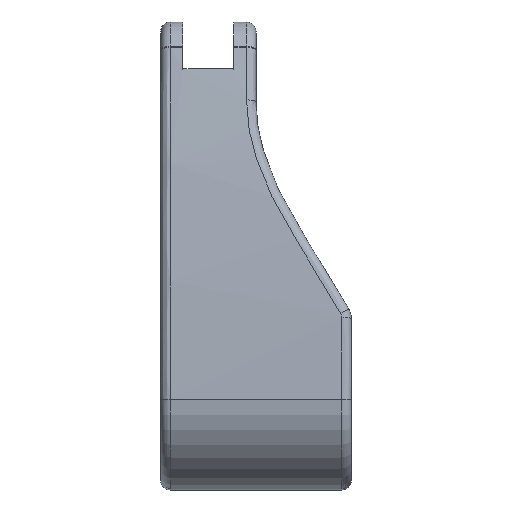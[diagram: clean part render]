
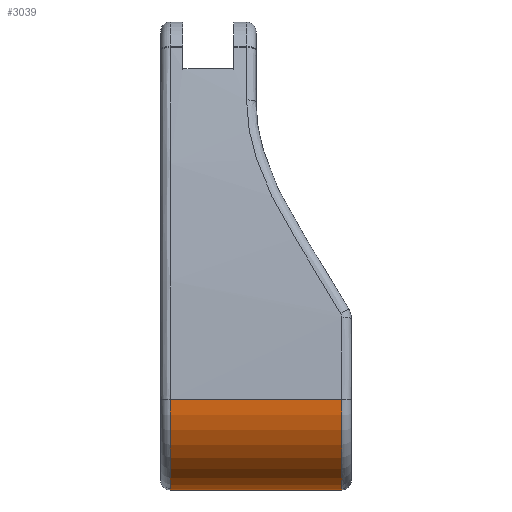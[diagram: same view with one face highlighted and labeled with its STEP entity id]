
A CAD part, left-side view. The second image highlights one B-rep face of the part: STEP entity #3039.
In plain terms, the highlighted cylindrical face has radius 28.5 mm (diameter 57 mm), a partial arc.
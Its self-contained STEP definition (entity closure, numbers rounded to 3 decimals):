
#16 = LINE ( 'NONE', #3915, #2393 ) ;
#274 = ORIENTED_EDGE ( 'NONE', *, *, #651, .T. ) ;
#429 = ORIENTED_EDGE ( 'NONE', *, *, #2463, .F. ) ;
#431 = CARTESIAN_POINT ( 'NONE',  ( 0., -57., -24.7 ) ) ;
#562 = DIRECTION ( 'NONE',  ( 0., 1., 0. ) ) ;
#636 = CARTESIAN_POINT ( 'NONE',  ( 0., -57., 3.8 ) ) ;
#651 = EDGE_CURVE ( 'NONE', #1935, #2460, #689, .T. ) ;
#689 = LINE ( 'NONE', #982, #3776 ) ;
#883 = EDGE_CURVE ( 'NONE', #1935, #1335, #3231, .T. ) ;
#982 = CARTESIAN_POINT ( 'NONE',  ( -28.5, -60., 3.8 ) ) ;
#1098 = CIRCLE ( 'NONE', #1435, 28.5 ) ;
#1149 = CARTESIAN_POINT ( 'NONE',  ( 0., -3., -24.7 ) ) ;
#1238 = DIRECTION ( 'NONE',  ( 0., 1., 0. ) ) ;
#1254 = AXIS2_PLACEMENT_3D ( 'NONE', #2172, #562, #3501 ) ;
#1279 = DIRECTION ( 'NONE',  ( 0., 0., 1. ) ) ;
#1335 = VERTEX_POINT ( 'NONE', #431 ) ;
#1401 = AXIS2_PLACEMENT_3D ( 'NONE', #636, #3206, #1279 ) ;
#1435 = AXIS2_PLACEMENT_3D ( 'NONE', #3017, #1238, #4159 ) ;
#1935 = VERTEX_POINT ( 'NONE', #2777 ) ;
#2172 = CARTESIAN_POINT ( 'NONE',  ( 0., -60., 3.8 ) ) ;
#2393 = VECTOR ( 'NONE', #3258, 1000. ) ;
#2451 = FACE_OUTER_BOUND ( 'NONE', #4124, .T. ) ;
#2460 = VERTEX_POINT ( 'NONE', #2600 ) ;
#2463 = EDGE_CURVE ( 'NONE', #3452, #2460, #1098, .T. ) ;
#2600 = CARTESIAN_POINT ( 'NONE',  ( -28.5, -3., 3.8 ) ) ;
#2644 = DIRECTION ( 'NONE',  ( 0., 1., 0. ) ) ;
#2777 = CARTESIAN_POINT ( 'NONE',  ( -28.5, -57., 3.8 ) ) ;
#3017 = CARTESIAN_POINT ( 'NONE',  ( 0., -3., 3.8 ) ) ;
#3039 = ADVANCED_FACE ( 'NONE', ( #2451 ), #3476, .T. ) ;
#3206 = DIRECTION ( 'NONE',  ( 0., -1., 0. ) ) ;
#3231 = CIRCLE ( 'NONE', #1401, 28.5 ) ;
#3258 = DIRECTION ( 'NONE',  ( 0., 1., 0. ) ) ;
#3396 = ORIENTED_EDGE ( 'NONE', *, *, #883, .F. ) ;
#3452 = VERTEX_POINT ( 'NONE', #1149 ) ;
#3476 = CYLINDRICAL_SURFACE ( 'NONE', #1254, 28.5 ) ;
#3501 = DIRECTION ( 'NONE',  ( 0., 0., -1. ) ) ;
#3776 = VECTOR ( 'NONE', #2644, 1000. ) ;
#3885 = EDGE_CURVE ( 'NONE', #1335, #3452, #16, .T. ) ;
#3915 = CARTESIAN_POINT ( 'NONE',  ( 0., -60., -24.7 ) ) ;
#3989 = ORIENTED_EDGE ( 'NONE', *, *, #3885, .F. ) ;
#4124 = EDGE_LOOP ( 'NONE', ( #3989, #3396, #274, #429 ) ) ;
#4159 = DIRECTION ( 'NONE',  ( 0., 0., 1. ) ) ;
